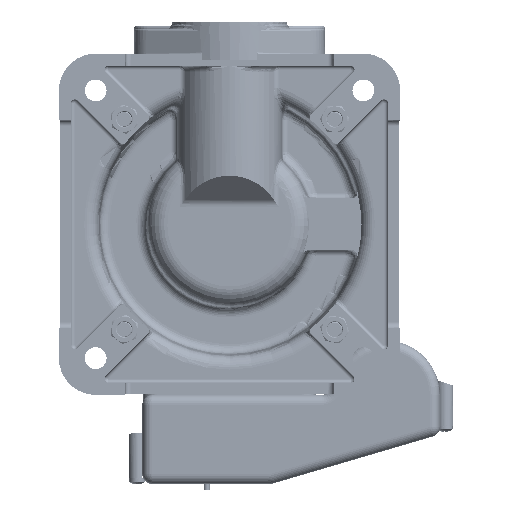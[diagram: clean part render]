
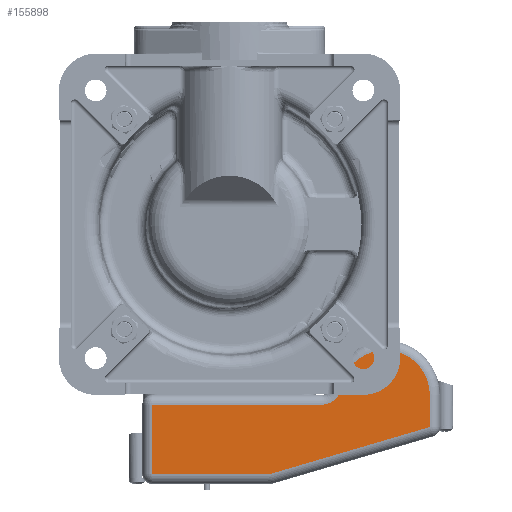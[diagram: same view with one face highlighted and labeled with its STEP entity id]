
A CAD part, front view. The second image highlights one B-rep face of the part: STEP entity #155898.
In plain terms, the highlighted planar face has unit normal (0, -1, 0).
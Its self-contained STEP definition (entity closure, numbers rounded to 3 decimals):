
#5374 = CARTESIAN_POINT ( 'NONE',  ( 46.387, 32.5, -91. ) ) ;
#9279 = ORIENTED_EDGE ( 'NONE', *, *, #168911, .T. ) ;
#13034 = CARTESIAN_POINT ( 'NONE',  ( -39., 32.5, -86. ) ) ;
#13510 = EDGE_CURVE ( 'NONE', #157048, #115673, #185981, .T. ) ;
#14083 = LINE ( 'NONE', #13034, #121980 ) ;
#15351 = CARTESIAN_POINT ( 'NONE',  ( 101., 32.5, -102.243 ) ) ;
#17025 = EDGE_CURVE ( 'NONE', #155669, #180126, #142318, .T. ) ;
#21324 = VERTEX_POINT ( 'NONE', #5374 ) ;
#22045 = DIRECTION ( 'NONE',  ( 1., 0., 0. ) ) ;
#22237 = AXIS2_PLACEMENT_3D ( 'NONE', #26272, #39156, #41219 ) ;
#24560 = CARTESIAN_POINT ( 'NONE',  ( 78.5, 32.5, -91. ) ) ;
#26272 = CARTESIAN_POINT ( 'NONE',  ( 78.5, 32.5, -86. ) ) ;
#28332 = CARTESIAN_POINT ( 'NONE',  ( 99.589, 32.5, -102.658 ) ) ;
#35036 = VECTOR ( 'NONE', #146533, 1000. ) ;
#39028 = CARTESIAN_POINT ( 'NONE',  ( 101., 32.5, -86. ) ) ;
#39156 = DIRECTION ( 'NONE',  ( 0., -1., 0. ) ) ;
#40318 = ORIENTED_EDGE ( 'NONE', *, *, #17025, .T. ) ;
#41219 = DIRECTION ( 'NONE',  ( 1., 0., 0. ) ) ;
#52316 = ORIENTED_EDGE ( 'NONE', *, *, #72535, .T. ) ;
#54632 = ORIENTED_EDGE ( 'NONE', *, *, #69634, .T. ) ;
#55701 = EDGE_CURVE ( 'NONE', #179714, #124259, #202528, .T. ) ;
#56097 = CARTESIAN_POINT ( 'NONE',  ( 19.505, 32.5, -126. ) ) ;
#56548 = DIRECTION ( 'NONE',  ( -1., 0., 0. ) ) ;
#60758 = CARTESIAN_POINT ( 'NONE',  ( 19.505, 32.5, -126. ) ) ;
#66718 = AXIS2_PLACEMENT_3D ( 'NONE', #127178, #112270, #178224 ) ;
#68694 = EDGE_CURVE ( 'NONE', #124259, #21324, #141469, .T. ) ;
#69634 = EDGE_CURVE ( 'NONE', #115673, #155669, #161974, .T. ) ;
#70203 = AXIS2_PLACEMENT_3D ( 'NONE', #123520, #205473, #161743 ) ;
#71954 = EDGE_CURVE ( 'NONE', #21324, #168986, #89570, .T. ) ;
#72535 = EDGE_CURVE ( 'NONE', #180126, #179714, #122038, .T. ) ;
#73148 = CARTESIAN_POINT ( 'NONE',  ( 56.268, 32.5, -82.538 ) ) ;
#77158 = VECTOR ( 'NONE', #56548, 1000. ) ;
#80556 = FACE_OUTER_BOUND ( 'NONE', #132833, .T. ) ;
#88032 = DIRECTION ( 'NONE',  ( 0., 0., 1. ) ) ;
#89570 = LINE ( 'NONE', #24560, #77158 ) ;
#92232 = ORIENTED_EDGE ( 'NONE', *, *, #13510, .T. ) ;
#110876 = ORIENTED_EDGE ( 'NONE', *, *, #71954, .T. ) ;
#112270 = DIRECTION ( 'NONE',  ( 0., 1., 0. ) ) ;
#113555 = DIRECTION ( 'NONE',  ( 0., 1., 0. ) ) ;
#115673 = VERTEX_POINT ( 'NONE', #60758 ) ;
#120085 = CARTESIAN_POINT ( 'NONE',  ( 20.916, 32.5, -125.797 ) ) ;
#120825 = ORIENTED_EDGE ( 'NONE', *, *, #68694, .T. ) ;
#121980 = VECTOR ( 'NONE', #126986, 1000. ) ;
#122038 = LINE ( 'NONE', #39028, #134929 ) ;
#123520 = CARTESIAN_POINT ( 'NONE',  ( 19.505, 32.5, -121. ) ) ;
#124259 = VERTEX_POINT ( 'NONE', #73148 ) ;
#126986 = DIRECTION ( 'NONE',  ( 0., 0., -1. ) ) ;
#127178 = CARTESIAN_POINT ( 'NONE',  ( 46.387, 32.5, -81. ) ) ;
#132833 = EDGE_LOOP ( 'NONE', ( #40318, #52316, #186318, #120825, #110876, #9279, #92232, #54632 ) ) ;
#134929 = VECTOR ( 'NONE', #88032, 1000. ) ;
#141469 = CIRCLE ( 'NONE', #66718, 10. ) ;
#142318 = LINE ( 'NONE', #28332, #35036 ) ;
#144450 = CARTESIAN_POINT ( 'NONE',  ( 78.5, 32.5, -86. ) ) ;
#146533 = DIRECTION ( 'NONE',  ( 0.959, 0., 0.282 ) ) ;
#146968 = VECTOR ( 'NONE', #22045, 1000. ) ;
#155669 = VERTEX_POINT ( 'NONE', #120085 ) ;
#155898 = ADVANCED_FACE ( 'NONE', ( #80556 ), #196563, .F. ) ;
#157048 = VERTEX_POINT ( 'NONE', #197297 ) ;
#161743 = DIRECTION ( 'NONE',  ( -1., 0., 0. ) ) ;
#161974 = CIRCLE ( 'NONE', #70203, 5. ) ;
#162492 = DIRECTION ( 'NONE',  ( 1., 0., 0. ) ) ;
#168911 = EDGE_CURVE ( 'NONE', #168986, #157048, #14083, .T. ) ;
#168986 = VERTEX_POINT ( 'NONE', #175919 ) ;
#175919 = CARTESIAN_POINT ( 'NONE',  ( -39., 32.5, -91. ) ) ;
#178224 = DIRECTION ( 'NONE',  ( 1., 0., 0. ) ) ;
#179714 = VERTEX_POINT ( 'NONE', #205467 ) ;
#180126 = VERTEX_POINT ( 'NONE', #15351 ) ;
#185981 = LINE ( 'NONE', #56097, #146968 ) ;
#186318 = ORIENTED_EDGE ( 'NONE', *, *, #55701, .T. ) ;
#196563 = PLANE ( 'NONE',  #204706 ) ;
#197297 = CARTESIAN_POINT ( 'NONE',  ( -39., 32.5, -126. ) ) ;
#202528 = CIRCLE ( 'NONE', #22237, 22.5 ) ;
#204706 = AXIS2_PLACEMENT_3D ( 'NONE', #144450, #113555, #162492 ) ;
#205467 = CARTESIAN_POINT ( 'NONE',  ( 101., 32.5, -86. ) ) ;
#205473 = DIRECTION ( 'NONE',  ( 0., -1., 0. ) ) ;
